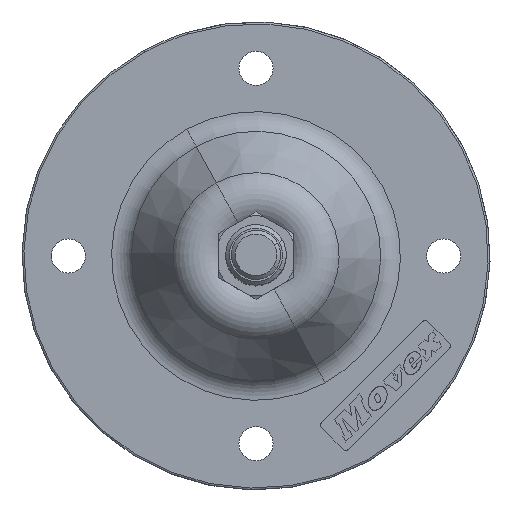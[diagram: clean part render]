
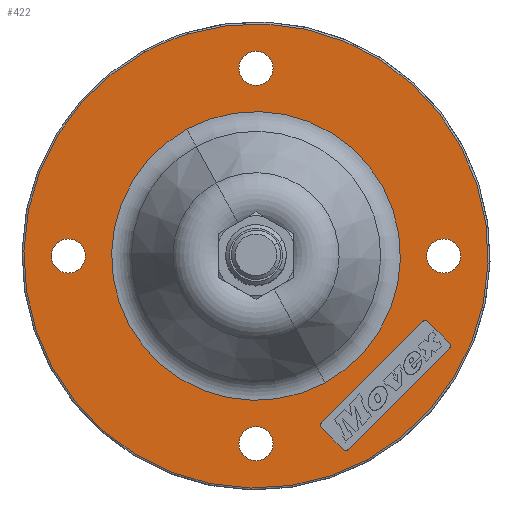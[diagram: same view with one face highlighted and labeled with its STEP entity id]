
A CAD part, top view. The second image highlights one B-rep face of the part: STEP entity #422.
In plain terms, the highlighted planar face has unit normal (0, 0, 1).
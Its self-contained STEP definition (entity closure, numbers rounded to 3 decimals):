
#93=CARTESIAN_POINT('Vertex',(-54.,0.,4.)) ;
#97=CARTESIAN_POINT('Control Point',(-54.,0.,4.)) ;
#98=CARTESIAN_POINT('Control Point',(-54.,-0.707,4.)) ;
#99=CARTESIAN_POINT('Control Point',(-53.861,-1.414,4.)) ;
#100=CARTESIAN_POINT('Control Point',(-53.583,-2.084,4.)) ;
#101=CARTESIAN_POINT('Control Point',(-52.78,-3.28,4.)) ;
#102=CARTESIAN_POINT('Control Point',(-51.584,-4.083,4.)) ;
#103=CARTESIAN_POINT('Control Point',(-50.914,-4.361,4.)) ;
#104=CARTESIAN_POINT('Control Point',(-49.5,-4.639,4.)) ;
#105=CARTESIAN_POINT('Control Point',(-48.086,-4.361,4.)) ;
#106=CARTESIAN_POINT('Control Point',(-47.416,-4.083,4.)) ;
#107=CARTESIAN_POINT('Control Point',(-46.22,-3.28,4.)) ;
#108=CARTESIAN_POINT('Control Point',(-45.417,-2.084,4.)) ;
#109=CARTESIAN_POINT('Control Point',(-45.139,-1.414,4.)) ;
#110=CARTESIAN_POINT('Control Point',(-45.,-0.707,4.)) ;
#111=CARTESIAN_POINT('Control Point',(-45.,0.,4.)) ;
#112=CARTESIAN_POINT('Vertex',(-45.,0.,4.)) ;
#237=CARTESIAN_POINT('Axis2P3D Location',(-49.5,0.,4.)) ;
#249=CARTESIAN_POINT('Axis2P3D Location',(0.,61.75,4.)) ;
#254=CARTESIAN_POINT('Axis2P3D Location',(0.,0.,4.)) ;
#258=CARTESIAN_POINT('Vertex',(29.365,-53.752,4.)) ;
#260=CARTESIAN_POINT('Vertex',(-18.03,58.536,4.)) ;
#263=CARTESIAN_POINT('Axis2P3D Location',(0.,0.,4.)) ;
#267=CARTESIAN_POINT('Vertex',(-29.365,53.752,4.)) ;
#270=CARTESIAN_POINT('Axis2P3D Location',(0.,0.,4.)) ;
#284=CARTESIAN_POINT('Axis2P3D Location',(49.5,0.,4.)) ;
#288=CARTESIAN_POINT('Vertex',(54.,0.,4.)) ;
#290=CARTESIAN_POINT('Vertex',(45.,0.,4.)) ;
#293=CARTESIAN_POINT('Axis2P3D Location',(49.5,0.,4.)) ;
#302=CARTESIAN_POINT('Axis2P3D Location',(0.,0.,4.)) ;
#306=CARTESIAN_POINT('Vertex',(-18.263,33.431,4.)) ;
#308=CARTESIAN_POINT('Vertex',(18.263,-33.431,4.)) ;
#311=CARTESIAN_POINT('Axis2P3D Location',(0.,0.,4.)) ;
#320=CARTESIAN_POINT('Axis2P3D Location',(0.,-49.5,4.)) ;
#324=CARTESIAN_POINT('Vertex',(0.,-45.,4.)) ;
#326=CARTESIAN_POINT('Vertex',(0.,-54.,4.)) ;
#329=CARTESIAN_POINT('Axis2P3D Location',(0.,-49.5,4.)) ;
#338=CARTESIAN_POINT('Axis2P3D Location',(0.,49.5,4.)) ;
#342=CARTESIAN_POINT('Vertex',(0.,54.,4.)) ;
#344=CARTESIAN_POINT('Vertex',(0.,45.,4.)) ;
#347=CARTESIAN_POINT('Axis2P3D Location',(0.,49.5,4.)) ;
#356=CARTESIAN_POINT('Axis2P3D Location',(50.373,-23.643,4.)) ;
#360=CARTESIAN_POINT('Vertex',(51.009,-24.28,4.)) ;
#362=CARTESIAN_POINT('Vertex',(51.009,-23.007,4.)) ;
#365=CARTESIAN_POINT('Line Origine',(37.645,-37.644,4.)) ;
#369=CARTESIAN_POINT('Vertex',(24.281,-51.008,4.)) ;
#372=CARTESIAN_POINT('Axis2P3D Location',(23.644,-50.372,4.)) ;
#376=CARTESIAN_POINT('Vertex',(23.008,-51.008,4.)) ;
#379=CARTESIAN_POINT('Line Origine',(20.144,-48.145,4.)) ;
#383=CARTESIAN_POINT('Vertex',(17.281,-45.281,4.)) ;
#386=CARTESIAN_POINT('Axis2P3D Location',(17.917,-44.645,4.)) ;
#390=CARTESIAN_POINT('Vertex',(17.281,-44.008,4.)) ;
#393=CARTESIAN_POINT('Line Origine',(30.645,-30.644,4.)) ;
#397=CARTESIAN_POINT('Vertex',(44.009,-17.28,4.)) ;
#400=CARTESIAN_POINT('Axis2P3D Location',(44.646,-17.916,4.)) ;
#404=CARTESIAN_POINT('Vertex',(45.282,-17.28,4.)) ;
#407=CARTESIAN_POINT('Line Origine',(48.145,-20.143,4.)) ;
#238=DIRECTION('Axis2P3D Direction',(0.,0.,1.)) ;
#250=DIRECTION('Axis2P3D Direction',(0.,0.,1.)) ;
#251=DIRECTION('Axis2P3D XDirection',(1.,0.,0.)) ;
#255=DIRECTION('Axis2P3D Direction',(0.,0.,1.)) ;
#264=DIRECTION('Axis2P3D Direction',(0.,0.,1.)) ;
#271=DIRECTION('Axis2P3D Direction',(0.,0.,1.)) ;
#285=DIRECTION('Axis2P3D Direction',(0.,0.,1.)) ;
#294=DIRECTION('Axis2P3D Direction',(0.,0.,1.)) ;
#303=DIRECTION('Axis2P3D Direction',(0.,0.,1.)) ;
#312=DIRECTION('Axis2P3D Direction',(0.,0.,1.)) ;
#321=DIRECTION('Axis2P3D Direction',(0.,0.,1.)) ;
#330=DIRECTION('Axis2P3D Direction',(0.,0.,1.)) ;
#339=DIRECTION('Axis2P3D Direction',(0.,0.,1.)) ;
#348=DIRECTION('Axis2P3D Direction',(0.,0.,1.)) ;
#357=DIRECTION('Axis2P3D Direction',(0.,0.,1.)) ;
#366=DIRECTION('Vector Direction',(0.707,0.707,0.)) ;
#373=DIRECTION('Axis2P3D Direction',(0.,0.,1.)) ;
#380=DIRECTION('Vector Direction',(-0.707,0.707,0.)) ;
#387=DIRECTION('Axis2P3D Direction',(0.,0.,1.)) ;
#394=DIRECTION('Vector Direction',(0.707,0.707,0.)) ;
#401=DIRECTION('Axis2P3D Direction',(0.,0.,1.)) ;
#408=DIRECTION('Vector Direction',(0.707,-0.707,0.)) ;
#239=AXIS2_PLACEMENT_3D('Circle Axis2P3D',#237,#238,$) ;
#252=AXIS2_PLACEMENT_3D('Plane Axis2P3D',#249,#250,#251) ;
#256=AXIS2_PLACEMENT_3D('Circle Axis2P3D',#254,#255,$) ;
#265=AXIS2_PLACEMENT_3D('Circle Axis2P3D',#263,#264,$) ;
#272=AXIS2_PLACEMENT_3D('Circle Axis2P3D',#270,#271,$) ;
#286=AXIS2_PLACEMENT_3D('Circle Axis2P3D',#284,#285,$) ;
#295=AXIS2_PLACEMENT_3D('Circle Axis2P3D',#293,#294,$) ;
#304=AXIS2_PLACEMENT_3D('Circle Axis2P3D',#302,#303,$) ;
#313=AXIS2_PLACEMENT_3D('Circle Axis2P3D',#311,#312,$) ;
#322=AXIS2_PLACEMENT_3D('Circle Axis2P3D',#320,#321,$) ;
#331=AXIS2_PLACEMENT_3D('Circle Axis2P3D',#329,#330,$) ;
#340=AXIS2_PLACEMENT_3D('Circle Axis2P3D',#338,#339,$) ;
#349=AXIS2_PLACEMENT_3D('Circle Axis2P3D',#347,#348,$) ;
#358=AXIS2_PLACEMENT_3D('Circle Axis2P3D',#356,#357,$) ;
#374=AXIS2_PLACEMENT_3D('Circle Axis2P3D',#372,#373,$) ;
#388=AXIS2_PLACEMENT_3D('Circle Axis2P3D',#386,#387,$) ;
#402=AXIS2_PLACEMENT_3D('Circle Axis2P3D',#400,#401,$) ;
#276=ORIENTED_EDGE('',*,*,#262,.T.) ;
#277=ORIENTED_EDGE('',*,*,#269,.T.) ;
#278=ORIENTED_EDGE('',*,*,#274,.T.) ;
#281=ORIENTED_EDGE('',*,*,#241,.F.) ;
#282=ORIENTED_EDGE('',*,*,#114,.F.) ;
#299=ORIENTED_EDGE('',*,*,#292,.F.) ;
#300=ORIENTED_EDGE('',*,*,#297,.F.) ;
#317=ORIENTED_EDGE('',*,*,#310,.F.) ;
#318=ORIENTED_EDGE('',*,*,#315,.F.) ;
#335=ORIENTED_EDGE('',*,*,#328,.F.) ;
#336=ORIENTED_EDGE('',*,*,#333,.F.) ;
#353=ORIENTED_EDGE('',*,*,#346,.F.) ;
#354=ORIENTED_EDGE('',*,*,#351,.F.) ;
#413=ORIENTED_EDGE('',*,*,#364,.F.) ;
#414=ORIENTED_EDGE('',*,*,#371,.F.) ;
#415=ORIENTED_EDGE('',*,*,#378,.F.) ;
#416=ORIENTED_EDGE('',*,*,#385,.F.) ;
#417=ORIENTED_EDGE('',*,*,#392,.F.) ;
#418=ORIENTED_EDGE('',*,*,#399,.F.) ;
#419=ORIENTED_EDGE('',*,*,#406,.F.) ;
#420=ORIENTED_EDGE('',*,*,#411,.F.) ;
#283=FACE_BOUND('',#280,.T.) ;
#301=FACE_BOUND('',#298,.T.) ;
#319=FACE_BOUND('',#316,.T.) ;
#337=FACE_BOUND('',#334,.T.) ;
#355=FACE_BOUND('',#352,.T.) ;
#421=FACE_BOUND('',#412,.T.) ;
#367=VECTOR('Line Direction',#366,1.) ;
#381=VECTOR('Line Direction',#380,1.) ;
#395=VECTOR('Line Direction',#394,1.) ;
#409=VECTOR('Line Direction',#408,1.) ;
#422=ADVANCED_FACE('PartBody',(#279,#283,#301,#319,#337,#355,#421),#253,.T.) ;
#96=B_SPLINE_CURVE_WITH_KNOTS('',5,(#97,#98,#99,#100,#101,#102,#103,#104,#105,#106,#107,#108,#109,#110,#111),.UNSPECIFIED.,.F.,.U.,(6,3,3,3,6),(-7.069,-3.534,0.,3.534,7.069),.UNSPECIFIED.) ;
#240=CIRCLE('generated circle',#239,4.5) ;
#257=CIRCLE('generated circle',#256,61.25) ;
#266=CIRCLE('generated circle',#265,61.25) ;
#273=CIRCLE('generated circle',#272,61.25) ;
#287=CIRCLE('generated circle',#286,4.5) ;
#296=CIRCLE('generated circle',#295,4.5) ;
#305=CIRCLE('generated circle',#304,38.094) ;
#314=CIRCLE('generated circle',#313,38.094) ;
#323=CIRCLE('generated circle',#322,4.5) ;
#332=CIRCLE('generated circle',#331,4.5) ;
#341=CIRCLE('generated circle',#340,4.5) ;
#350=CIRCLE('generated circle',#349,4.5) ;
#359=CIRCLE('generated circle',#358,0.9) ;
#375=CIRCLE('generated circle',#374,0.9) ;
#389=CIRCLE('generated circle',#388,0.9) ;
#403=CIRCLE('generated circle',#402,0.9) ;
#114=EDGE_CURVE('',#94,#113,#96,.T.) ;
#241=EDGE_CURVE('',#113,#94,#240,.T.) ;
#262=EDGE_CURVE('',#259,#261,#257,.T.) ;
#269=EDGE_CURVE('',#261,#268,#266,.T.) ;
#274=EDGE_CURVE('',#268,#259,#273,.T.) ;
#292=EDGE_CURVE('',#289,#291,#287,.T.) ;
#297=EDGE_CURVE('',#291,#289,#296,.T.) ;
#310=EDGE_CURVE('',#307,#309,#305,.T.) ;
#315=EDGE_CURVE('',#309,#307,#314,.T.) ;
#328=EDGE_CURVE('',#325,#327,#323,.T.) ;
#333=EDGE_CURVE('',#327,#325,#332,.T.) ;
#346=EDGE_CURVE('',#343,#345,#341,.T.) ;
#351=EDGE_CURVE('',#345,#343,#350,.T.) ;
#364=EDGE_CURVE('',#361,#363,#359,.T.) ;
#371=EDGE_CURVE('',#370,#361,#368,.T.) ;
#378=EDGE_CURVE('',#377,#370,#375,.T.) ;
#385=EDGE_CURVE('',#384,#377,#382,.F.) ;
#392=EDGE_CURVE('',#391,#384,#389,.T.) ;
#399=EDGE_CURVE('',#398,#391,#396,.F.) ;
#406=EDGE_CURVE('',#405,#398,#403,.T.) ;
#411=EDGE_CURVE('',#363,#405,#410,.F.) ;
#275=EDGE_LOOP('',(#276,#277,#278)) ;
#280=EDGE_LOOP('',(#281,#282)) ;
#298=EDGE_LOOP('',(#299,#300)) ;
#316=EDGE_LOOP('',(#317,#318)) ;
#334=EDGE_LOOP('',(#335,#336)) ;
#352=EDGE_LOOP('',(#353,#354)) ;
#412=EDGE_LOOP('',(#413,#414,#415,#416,#417,#418,#419,#420)) ;
#279=FACE_OUTER_BOUND('',#275,.T.) ;
#368=LINE('Line',#365,#367) ;
#382=LINE('Line',#379,#381) ;
#396=LINE('Line',#393,#395) ;
#410=LINE('Line',#407,#409) ;
#253=PLANE('',#252) ;
#94=VERTEX_POINT('',#93) ;
#113=VERTEX_POINT('',#112) ;
#259=VERTEX_POINT('',#258) ;
#261=VERTEX_POINT('',#260) ;
#268=VERTEX_POINT('',#267) ;
#289=VERTEX_POINT('',#288) ;
#291=VERTEX_POINT('',#290) ;
#307=VERTEX_POINT('',#306) ;
#309=VERTEX_POINT('',#308) ;
#325=VERTEX_POINT('',#324) ;
#327=VERTEX_POINT('',#326) ;
#343=VERTEX_POINT('',#342) ;
#345=VERTEX_POINT('',#344) ;
#361=VERTEX_POINT('',#360) ;
#363=VERTEX_POINT('',#362) ;
#370=VERTEX_POINT('',#369) ;
#377=VERTEX_POINT('',#376) ;
#384=VERTEX_POINT('',#383) ;
#391=VERTEX_POINT('',#390) ;
#398=VERTEX_POINT('',#397) ;
#405=VERTEX_POINT('',#404) ;
